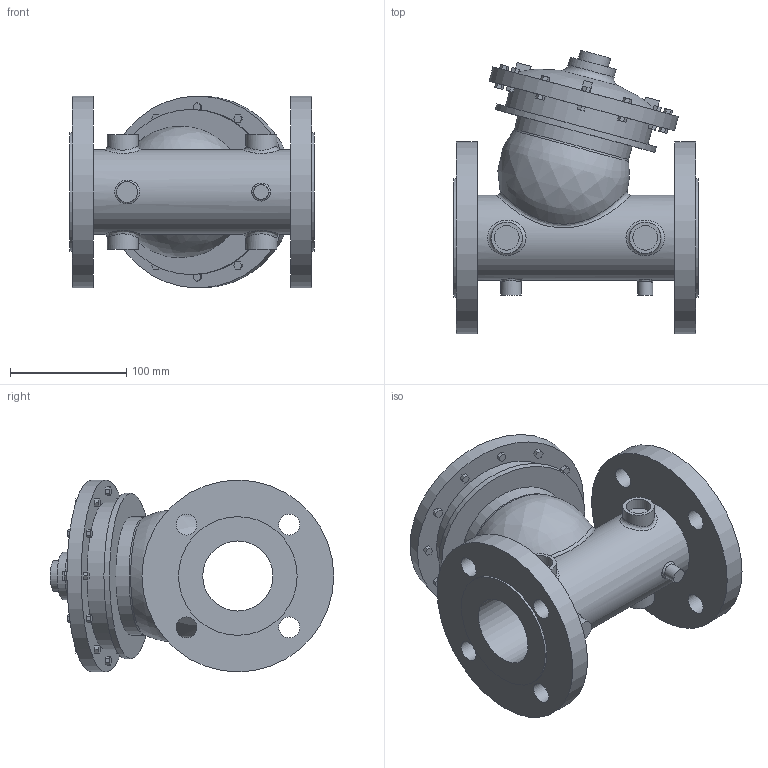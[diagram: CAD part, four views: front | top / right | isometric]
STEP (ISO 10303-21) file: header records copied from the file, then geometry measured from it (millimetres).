
FILE_DESCRIPTION(/* description */ ('VIC FP VALVE PRESSURE RELIEF SERIES 867-7UF (PN25)','CAx-IF Rec.Pracs.---Representation and Presentation of Product Manufacturing Information (PMI)---4.0---2014-10-13'),/* implementation_level */ '2;1');
FILE_NAME(/* name */ 'C:\Series 867-7UF\New folder (2)\step\Victaulic_FP-Bermad_Valve Pressure Relief_Series 867-7UF (PN25)\Victaulic_FP-Bermad_Valve Pressure Relief_Series 867-7UF (PN25)_2 (50).stp',/* time_stamp */ '2021-09-02T12:55:52+05:00',/* author */ ('kkamble'),/* organization */ ('Victaulic'),/* preprocessor_version */ 'ST-DEVELOPER v17.2',/* originating_system */ 'Autodesk Inventor 2019',/* authorisation */ '');
FILE_SCHEMA (('AP242_MANAGED_MODEL_BASED_3D_ENGINEERING_MIM_LF { 1 0 10303 442 1 1 4 }'));
Length unit declared in the file: inch
Products named in the file (1): 867-7UF-02.0
Bounding box: 210.06 x 244 x 165.1 mm (x, y, z)
Volume: 2185803.8 mm3; surface area: 262723.4 mm2
Topology: 1 solids, 1 shells, 256 faces, 650 edges, 441 vertices
Faces by surface type: plane 214, cylinder 31, bspline 9, torus 2
Full cylindrical faces by diameter (mm): 12.7 x1, 17.78 x1, 18.034 x8, 21.336 x4, 26.67 x1, 26.873 x4, 40.64 x1, 60.325 x1, 73.025 x1, 101.6 x1, 102.108 x2, 127 x1, 142.24 x1, 165.1 x3
Entity records: 9188 total; most frequent: CARTESIAN_POINT 2514, ORIENTED_EDGE 1312, DIRECTION 1237, EDGE_CURVE 656, LINE 515, VECTOR 515, VERTEX_POINT 447, AXIS2_PLACEMENT_3D 361
